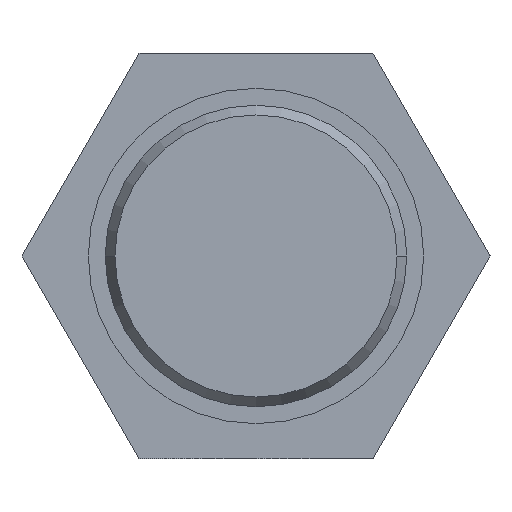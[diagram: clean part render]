
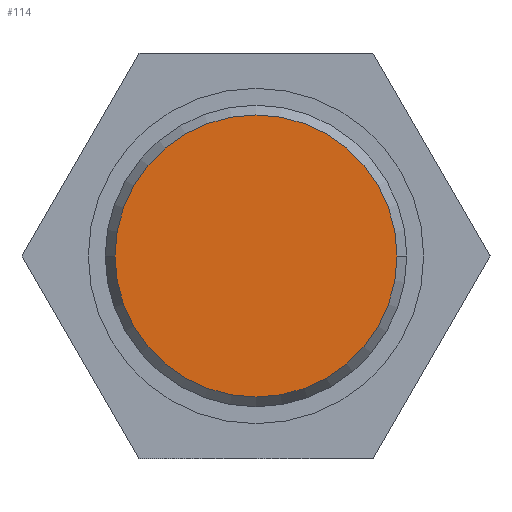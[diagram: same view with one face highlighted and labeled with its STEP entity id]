
A CAD part, left-side view. The second image highlights one B-rep face of the part: STEP entity #114.
In plain terms, the highlighted planar face has unit normal (-1, 0, 0).
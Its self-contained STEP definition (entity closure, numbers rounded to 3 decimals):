
#17 = AXIS2_PLACEMENT_3D ( 'NONE', #770, #649, #638 ) ;
#71 = AXIS2_PLACEMENT_3D ( 'NONE', #724, #165, #101 ) ;
#101 = DIRECTION ( 'NONE',  ( 0., 1., 0. ) ) ;
#114 = ADVANCED_FACE ( 'NONE', ( #581 ), #671, .T. ) ;
#161 = CARTESIAN_POINT ( 'NONE',  ( 0., 8.35, 0. ) ) ;
#165 = DIRECTION ( 'NONE',  ( 1., 0., 0. ) ) ;
#178 = DIRECTION ( 'NONE',  ( 0., 1., 0. ) ) ;
#185 = DIRECTION ( 'NONE',  ( 1., 0., 0. ) ) ;
#242 = VERTEX_POINT ( 'NONE', #161 ) ;
#269 = CARTESIAN_POINT ( 'NONE',  ( 0., 0., 0. ) ) ;
#344 = CIRCLE ( 'NONE', #480, 8.35 ) ;
#379 = VERTEX_POINT ( 'NONE', #629 ) ;
#409 = EDGE_CURVE ( 'NONE', #242, #379, #843, .T. ) ;
#459 = ORIENTED_EDGE ( 'NONE', *, *, #409, .F. ) ;
#471 = EDGE_LOOP ( 'NONE', ( #459, #811 ) ) ;
#480 = AXIS2_PLACEMENT_3D ( 'NONE', #269, #185, #178 ) ;
#581 = FACE_OUTER_BOUND ( 'NONE', #471, .T. ) ;
#596 = EDGE_CURVE ( 'NONE', #379, #242, #344, .T. ) ;
#629 = CARTESIAN_POINT ( 'NONE',  ( 0., -8.35, 0. ) ) ;
#638 = DIRECTION ( 'NONE',  ( 0., -1., 0. ) ) ;
#649 = DIRECTION ( 'NONE',  ( -1., 0., 0. ) ) ;
#671 = PLANE ( 'NONE',  #17 ) ;
#724 = CARTESIAN_POINT ( 'NONE',  ( 0., 0., 0. ) ) ;
#770 = CARTESIAN_POINT ( 'NONE',  ( 0., 0., 0. ) ) ;
#811 = ORIENTED_EDGE ( 'NONE', *, *, #596, .F. ) ;
#843 = CIRCLE ( 'NONE', #71, 8.35 ) ;
